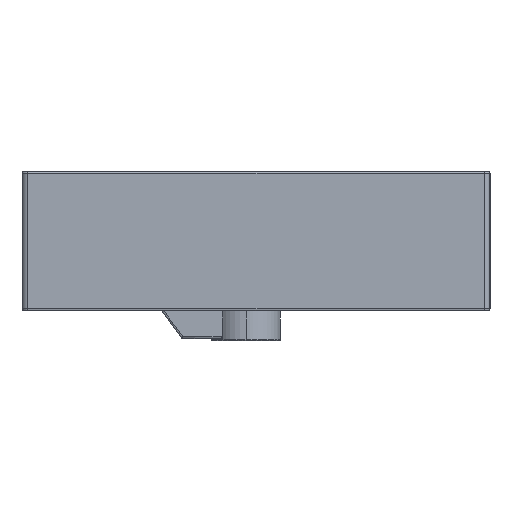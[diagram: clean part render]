
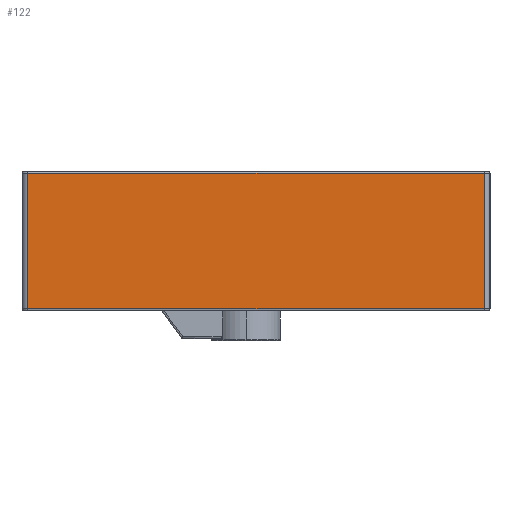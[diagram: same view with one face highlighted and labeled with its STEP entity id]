
A CAD part, left-side view. The second image highlights one B-rep face of the part: STEP entity #122.
In plain terms, the highlighted planar face has unit normal (-1, 0, 0).
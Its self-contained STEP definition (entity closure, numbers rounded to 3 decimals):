
#122=ADVANCED_FACE('',(#284),#2289,.T.);
#284=FACE_OUTER_BOUND('',#456,.T.);
#456=EDGE_LOOP('',(#932,#933,#934,#935));
#932=ORIENTED_EDGE('',*,*,#1466,.T.);
#933=ORIENTED_EDGE('',*,*,#1465,.F.);
#934=ORIENTED_EDGE('',*,*,#1464,.F.);
#935=ORIENTED_EDGE('',*,*,#1467,.F.);
#1464=EDGE_CURVE('',#2091,#2092,#1635,.T.);
#1465=EDGE_CURVE('',#2092,#2094,#1636,.T.);
#1466=EDGE_CURVE('',#2093,#2094,#1637,.T.);
#1467=EDGE_CURVE('',#2093,#2091,#1638,.T.);
#1635=B_SPLINE_CURVE_WITH_KNOTS('',1,(#29577,#29578),.UNSPECIFIED.,.F.,
 .F.,(2,2),(0.,458.),.UNSPECIFIED.);
#1636=B_SPLINE_CURVE_WITH_KNOTS('',1,(#29579,#29580),.UNSPECIFIED.,.F.,
 .F.,(2,2),(2.,138.),.UNSPECIFIED.);
#1637=B_SPLINE_CURVE_WITH_KNOTS('',1,(#29581,#29582),.UNSPECIFIED.,.F.,
 .F.,(2,2),(0.,458.),.UNSPECIFIED.);
#1638=B_SPLINE_CURVE_WITH_KNOTS('',1,(#29583,#29584),.UNSPECIFIED.,.F.,
 .F.,(2,2),(2.,138.),.UNSPECIFIED.);
#2091=VERTEX_POINT('',#27582);
#2092=VERTEX_POINT('',#27583);
#2093=VERTEX_POINT('',#27584);
#2094=VERTEX_POINT('',#27585);
#2289=PLANE('',#2432);
#2432=AXIS2_PLACEMENT_3D('',#26287,#2521,$);
#2521=DIRECTION('',(-1.,0.,0.));
#26287=CARTESIAN_POINT('',(-600.,-470.,140.));
#27582=CARTESIAN_POINT('',(-600.,-6.,138.));
#27583=CARTESIAN_POINT('',(-600.,-464.,138.));
#27584=CARTESIAN_POINT('',(-600.,-6.,2.));
#27585=CARTESIAN_POINT('',(-600.,-464.,2.));
#29577=CARTESIAN_POINT('',(-600.,-6.,138.));
#29578=CARTESIAN_POINT('',(-600.,-464.,138.));
#29579=CARTESIAN_POINT('',(-600.,-464.,138.));
#29580=CARTESIAN_POINT('',(-600.,-464.,2.));
#29581=CARTESIAN_POINT('',(-600.,-6.,2.));
#29582=CARTESIAN_POINT('',(-600.,-464.,2.));
#29583=CARTESIAN_POINT('',(-600.,-6.,2.));
#29584=CARTESIAN_POINT('',(-600.,-6.,138.));
